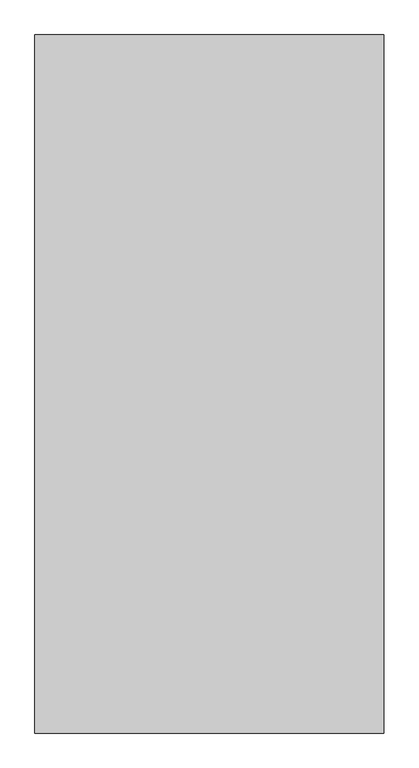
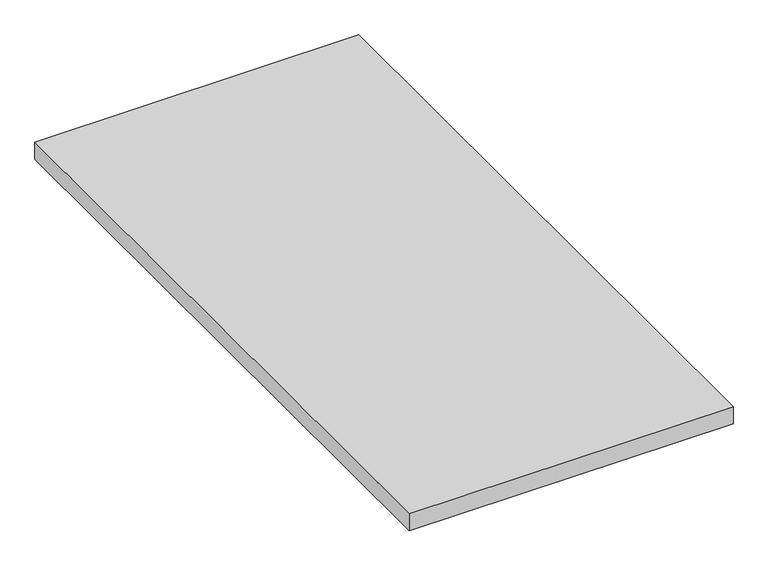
"""IFC4 building model written with IfcOpenShell, lengths in millimetres: proxy geometry, Água2 : Água."""

from ifc_helpers import new_model, si_unit, frame, origin, place, context, project, spatial, polyline, outline, extrude, source, transform, mapped, element, save


def generic_models_5d5f10d4(model_context):
    return source(origin(), model_context, "Body", "SweptSolid", [
        extrude(outline(polyline([(-9053.9813168, -883.608239), (-7703.9813168, -883.608239), (-7703.9813168, -3583.608239), (-9053.9813168, -3583.608239), (-9053.9813168, -883.608239)])), frame((0.0, 0.0, -80.0), z_axis=(0.0, 0.0, 1.0), x_axis=(1.0, 0.0, 0.0)), (0.0, 0.0, 1.0), 75.0),
    ])


if __name__ == "__main__":
    model = new_model("IFC4")
    model_context = context("Model", 3, world=origin())
    ifc_project = project(units=[si_unit("LENGTHUNIT", "METRE", prefix="MILLI")], contexts=[model_context])
    site = spatial("IfcSite", under=ifc_project)
    building = spatial("IfcBuilding", under=site)
    placement = place(None, origin())
    generic_models_shape = generic_models_5d5f10d4(model_context)
    element("IfcBuildingElementProxy", 1, Name="Água2 : Água", ObjectType="Água2 : Água", at=placement, inside=building, context=model_context, shape_type="MappedRepresentation", body=[
        mapped(generic_models_shape, transform((0.0, 0.0, 0.0), x_axis=(1.0, 0.0, 0.0), y_axis=(0.0, 1.0, 0.0), z_axis=(0.0, 0.0, 1.0))),
    ])
    save(model, "model.ifc")
